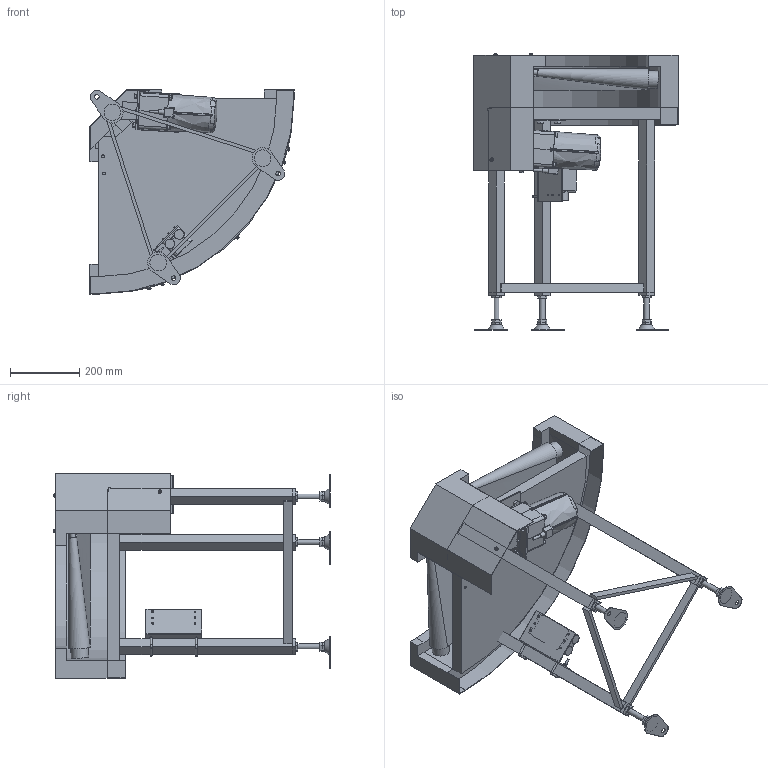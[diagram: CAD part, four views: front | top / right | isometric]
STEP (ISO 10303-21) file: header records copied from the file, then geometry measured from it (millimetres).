
FILE_DESCRIPTION( (''), '2;1');
FILE_NAME ('WEB-FBC-309-300-90°-R-K-60.stp','2025-10-17T09:58:47',(''),(''),'spGate 20.6.2 (****-****-****-****)','','');
FILE_SCHEMA (('AUTOMOTIVE_DESIGN'));
Length unit declared in the file: millimetre
Products named in the file (55): WEB-FBC-309-300-90_-R-K-60; TEMP_X_T-prt0; TEMP_X_T-prt1; TEMP_X_T-prt2; TEMP_X_T-prt3; TEMP_X_T-prt4; TEMP_X_T-prt5; TEMP_X_T-prt6; TEMP_X_T-prt7; TEMP_X_T-prt8; TEMP_X_T-prt9; TEMP_X_T-prt10; TEMP_X_T-prt11; TEMP_X_T-prt12; TEMP_X_T-prt13; TEMP_X_T-prt14; TEMP_X_T-prt15; TEMP_X_T-prt16; TEMP_X_T-prt17; TEMP_X_T-prt18; TEMP_X_T-prt19; TEMP_X_T-prt20; TEMP_X_T-prt21; TEMP_X_T-prt22; TEMP_X_T-prt23; TEMP_X_T-prt24; TEMP_X_T-prt25; TEMP_X_T-prt26; TEMP_X_T-prt27; TEMP_X_T-prt28; TEMP_X_T-prt29; TEMP_X_T-prt30; TEMP_X_T-prt31; TEMP_X_T-prt32; TEMP_X_T-prt33; TEMP_X_T-prt34; TEMP_X_T-prt35; TEMP_X_T-prt36; TEMP_X_T-prt37; TEMP_X_T-prt38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
Assembly tree (54 placements, depth 2):
  WEB-FBC-309-300-90_-R-K-60
    TEMP_X_T-prt0
    TEMP_X_T-prt1
    TEMP_X_T-prt2
    TEMP_X_T-prt3
    TEMP_X_T-prt4
    TEMP_X_T-prt5
    TEMP_X_T-prt6
    TEMP_X_T-prt7
    TEMP_X_T-prt8
    TEMP_X_T-prt9
    TEMP_X_T-prt10
    TEMP_X_T-prt11
    TEMP_X_T-prt12
    TEMP_X_T-prt13
    TEMP_X_T-prt14
    TEMP_X_T-prt15
    TEMP_X_T-prt16
    TEMP_X_T-prt17
    TEMP_X_T-prt18
    TEMP_X_T-prt19
    TEMP_X_T-prt20
    TEMP_X_T-prt21
    TEMP_X_T-prt22
    TEMP_X_T-prt23
    TEMP_X_T-prt24
    TEMP_X_T-prt25
    TEMP_X_T-prt26
    TEMP_X_T-prt27
    TEMP_X_T-prt28
    TEMP_X_T-prt29
    TEMP_X_T-prt30
    TEMP_X_T-prt31
    TEMP_X_T-prt32
    TEMP_X_T-prt33
    TEMP_X_T-prt34
    TEMP_X_T-prt35
    TEMP_X_T-prt36
    TEMP_X_T-prt37
    TEMP_X_T-prt38
    TEMP_X_T-prt39
    TEMP_X_T-prt40
    TEMP_X_T-prt41
    TEMP_X_T-prt42
    TEMP_X_T-prt43
    TEMP_X_T-prt44
    TEMP_X_T-prt45
    TEMP_X_T-prt46
    TEMP_X_T-prt47
    TEMP_X_T-prt48
    TEMP_X_T-prt49
    TEMP_X_T-prt50
    TEMP_X_T-prt51
    TEMP_X_T-prt52
    TEMP_X_T-prt53
Bounding box: 588 x 796.1 x 588 mm (x, y, z)
Volume: 2760006.5 mm3; surface area: 2353244.3 mm2
Topology: 7 solids, 54 shells, 681 faces, 2088 edges, 1508 vertices
Faces by surface type: plane 486, cylinder 147, bspline 47, sphere 1
Full cylindrical faces by diameter (mm): 5 x12, 6 x10, 7 x4, 7.8 x1, 8 x4, 8.5 x4, 9 x8, 9.2 x9, 10 x8, 12.5 x4, 13 x7, 15 x2, 16 x3, 17 x7, 18 x1, 19 x2, 27.8 x3, 42 x1, 50 x2, 94 x1
Entity records: 44271 total; most frequent: CARTESIAN_POINT 8611, DIRECTION 3850, ORIENTED_EDGE 3637, COLOUR_RGB 2820, PRESENTATION_STYLE_ASSIGNMENT 2820, STYLED_ITEM 2820, EDGE_CURVE 2085, DRAUGHTING_PRE_DEFINED_CURVE_FONT 2085
